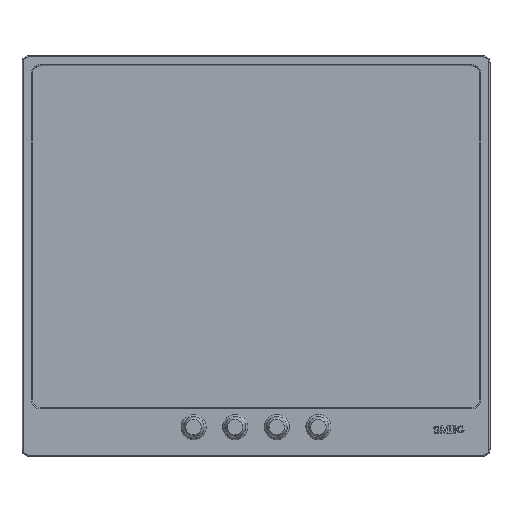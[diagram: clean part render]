
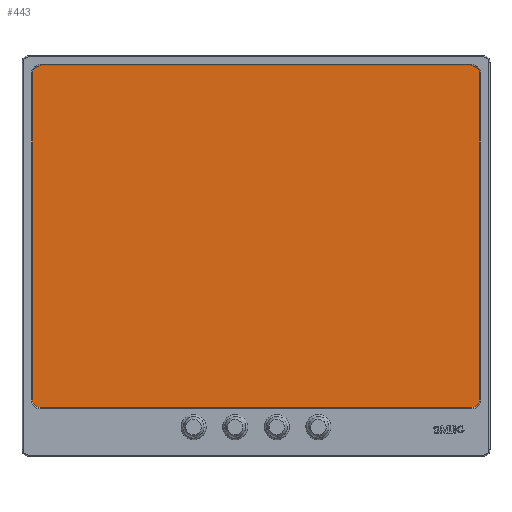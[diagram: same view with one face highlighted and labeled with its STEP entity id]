
A CAD part, top view. The second image highlights one B-rep face of the part: STEP entity #443.
In plain terms, the highlighted planar face has unit normal (0, 0, 1).
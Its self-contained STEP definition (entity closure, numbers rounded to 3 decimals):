
#443=ADVANCED_FACE('',(#771),#668,.T.);
#668=PLANE('',#3781);
#771=FACE_OUTER_BOUND('',#966,.T.);
#966=EDGE_LOOP('',(#1465,#1466,#1467,#1468,#1469,#1470,#1471,#1472));
#1229=CIRCLE('',#3777,5.);
#1230=CIRCLE('',#3778,5.);
#1231=CIRCLE('',#3779,5.);
#1232=CIRCLE('',#3780,5.);
#1465=ORIENTED_EDGE('',*,*,#2787,.F.);
#1466=ORIENTED_EDGE('',*,*,#2788,.T.);
#1467=ORIENTED_EDGE('',*,*,#2789,.F.);
#1468=ORIENTED_EDGE('',*,*,#2790,.T.);
#1469=ORIENTED_EDGE('',*,*,#2791,.F.);
#1470=ORIENTED_EDGE('',*,*,#2792,.T.);
#1471=ORIENTED_EDGE('',*,*,#2793,.F.);
#1472=ORIENTED_EDGE('',*,*,#2794,.T.);
#2447=VERTEX_POINT('',#5401);
#2448=VERTEX_POINT('',#5402);
#2449=VERTEX_POINT('',#5404);
#2450=VERTEX_POINT('',#5406);
#2451=VERTEX_POINT('',#5408);
#2452=VERTEX_POINT('',#5410);
#2453=VERTEX_POINT('',#5412);
#2454=VERTEX_POINT('',#5414);
#2787=EDGE_CURVE('',#2447,#2448,#3278,.T.);
#2788=EDGE_CURVE('',#2447,#2449,#1229,.T.);
#2789=EDGE_CURVE('',#2450,#2449,#3279,.T.);
#2790=EDGE_CURVE('',#2450,#2451,#1230,.T.);
#2791=EDGE_CURVE('',#2452,#2451,#3280,.T.);
#2792=EDGE_CURVE('',#2452,#2453,#1231,.T.);
#2793=EDGE_CURVE('',#2454,#2453,#3281,.T.);
#2794=EDGE_CURVE('',#2454,#2448,#1232,.T.);
#3278=LINE('',#5400,#3527);
#3279=LINE('',#5405,#3528);
#3280=LINE('',#5409,#3529);
#3281=LINE('',#5413,#3530);
#3527=VECTOR('',#4236,1.);
#3528=VECTOR('',#4239,1.);
#3529=VECTOR('',#4242,1.);
#3530=VECTOR('',#4245,1.);
#3777=AXIS2_PLACEMENT_3D('',#5403,#4237,#4238);
#3778=AXIS2_PLACEMENT_3D('',#5407,#4240,#4241);
#3779=AXIS2_PLACEMENT_3D('',#5411,#4243,#4244);
#3780=AXIS2_PLACEMENT_3D('',#5415,#4246,#4247);
#3781=AXIS2_PLACEMENT_3D('',#5416,#4248,#4249);
#4236=DIRECTION('',(0.,-1.,0.));
#4237=DIRECTION('',(0.,0.,1.));
#4238=DIRECTION('',(1.,0.,0.));
#4239=DIRECTION('',(1.,0.,0.));
#4240=DIRECTION('',(0.,0.,1.));
#4241=DIRECTION('',(1.,0.,0.));
#4242=DIRECTION('',(0.,1.,0.));
#4243=DIRECTION('',(0.,0.,1.));
#4244=DIRECTION('',(1.,0.,0.));
#4245=DIRECTION('',(-1.,0.,0.));
#4246=DIRECTION('',(0.,0.,1.));
#4247=DIRECTION('',(1.,0.,0.));
#4248=DIRECTION('',(0.,0.,1.));
#4249=DIRECTION('',(1.,0.,0.));
#5400=CARTESIAN_POINT('',(438.977,338.626,54.5));
#5401=CARTESIAN_POINT('',(438.977,558.126,54.5));
#5402=CARTESIAN_POINT('',(438.977,119.126,54.5));
#5403=CARTESIAN_POINT('',(433.977,558.126,54.5));
#5404=CARTESIAN_POINT('',(433.977,563.126,54.5));
#5405=CARTESIAN_POINT('',(144.977,563.126,54.5));
#5406=CARTESIAN_POINT('',(-144.023,563.126,54.5));
#5407=CARTESIAN_POINT('',(-144.023,558.126,54.5));
#5408=CARTESIAN_POINT('',(-149.023,558.126,54.5));
#5409=CARTESIAN_POINT('',(-149.023,338.626,54.5));
#5410=CARTESIAN_POINT('',(-149.023,119.126,54.5));
#5411=CARTESIAN_POINT('',(-144.023,119.126,54.5));
#5412=CARTESIAN_POINT('',(-144.023,114.126,54.5));
#5413=CARTESIAN_POINT('',(144.977,114.126,54.5));
#5414=CARTESIAN_POINT('',(433.977,114.126,54.5));
#5415=CARTESIAN_POINT('',(433.977,119.126,54.5));
#5416=CARTESIAN_POINT('',(144.977,338.626,54.5));
